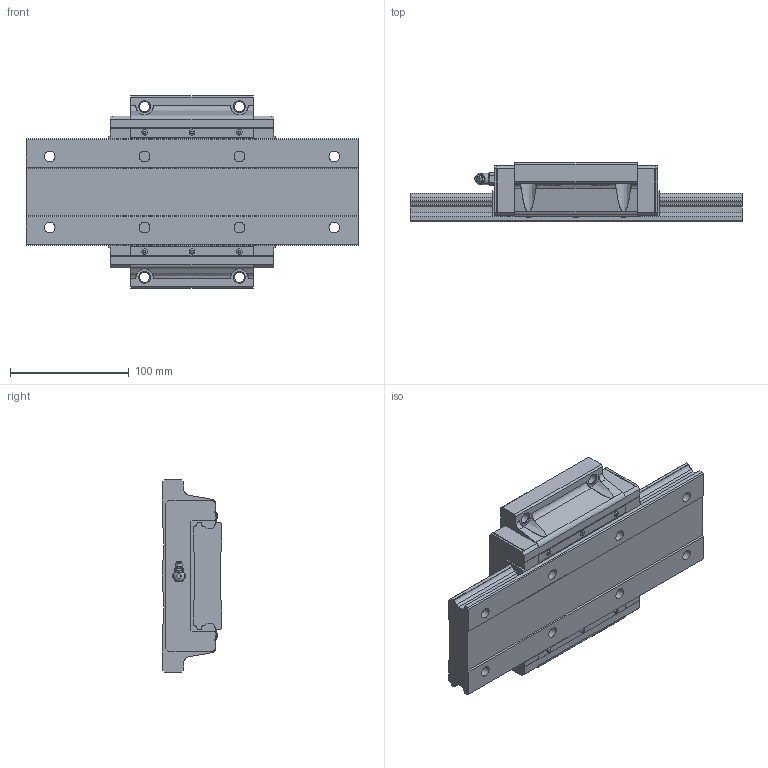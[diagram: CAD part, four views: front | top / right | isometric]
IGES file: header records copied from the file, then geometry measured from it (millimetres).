
Start section: Data from Parasolid IGES Translator 26.0.171, Copyright(c) 2006 Siemens PLM Software. All Rights Reserved.
Global section: file name: HRW50CA1SS-280L_G20_0_B-PT18_69-75_0_0_0_1.igs; native system: By Siemens PLM Incorporated; preprocessor: XPlus GENERIC/IGES 26.0.171; author: Noname; organization: Noname; date: 20240521.094920; units: millimetre
Bounding box: 280 x 50 x 162 mm (x, y, z)
Surface area: 151715.2 mm2 (no closed solid volume)
Topology: 0 solids, 0 shells, 264 faces, 1425 edges, 1356 vertices
Faces by surface type: extrusion 179, revolution 85
